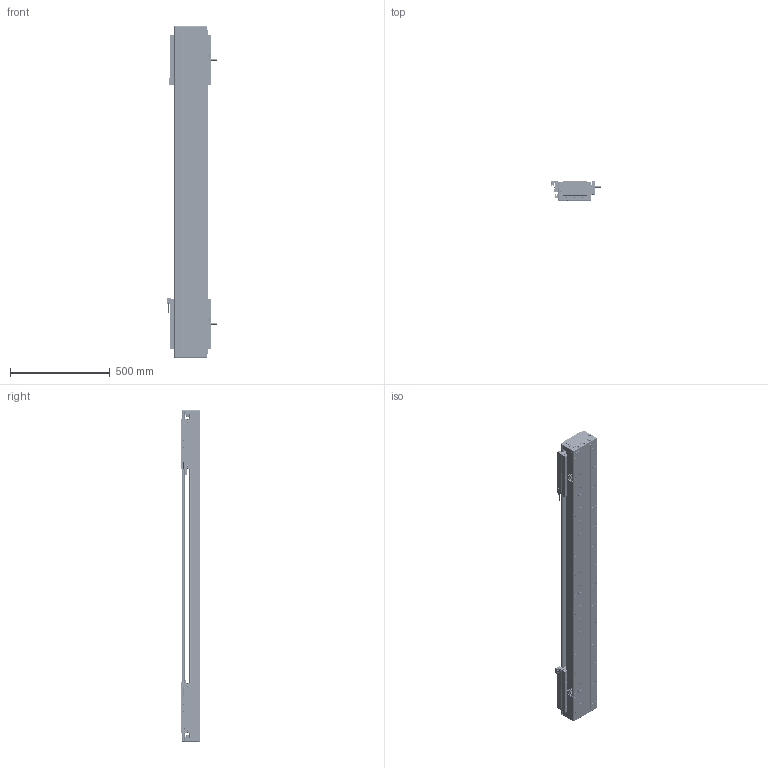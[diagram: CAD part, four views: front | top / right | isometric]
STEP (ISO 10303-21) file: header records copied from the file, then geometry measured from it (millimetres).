
FILE_DESCRIPTION (( 'STEP AP203' ), '1' );
FILE_NAME ('DA-C165-2-C3-T1040-C010-0.2 直线电机.STEP', '2023-06-13T09:27:27', ( '微软用户' ), ( '微软中国' ), 'SwSTEP 2.0', 'SolidWorks 2019', '' );
FILE_SCHEMA (( 'CONFIG_CONTROL_DESIGN' ));
Length unit declared in the file: millimetre
Products named in the file (19): 复件 DA95-HXJ-00 缓冲橡胶^DA-C165-C3-T-C010-0.2-N 直线电机; 复件 XD-U-02L 磁栅尺^DA-C165-C3-T-C010-0.2-N 直线电机_T; 葩璃 PM-T45^DA-C165-C3-T-C010-0.2-N 眻盄萇儂; 珨极趙賑雄怢啣C3-wf; 葩璃 DA95-GT-T-00^IU-CU165-L 菁釱絳寢_T; 复件 66338-1000-006-00 光电感应块^DA-C165-C3-T-C010-0.2-N 直线电机; 复件 DMA-010-0.2 读数头^DA-C165-C3-T-C010-0.2-N 直线电机; 复件 DA126-GYP-ZJ-00 中间光电感应片^DA-C165-C3-T-C010-0.2-N 直线电机; 葩璃 CKM01-W075-TRL^DA-C165-C3-T-C010-0.2-N 眻盄萇儂; 葩璃 PM-Y45^DA-C165-C3-T-C010-0.2-N 眻盄萇儂; 复件 DA165-GYP-00 光电感应片^DA-C165-C3-T-C010-0.2-N 直线电机; 复件 CU165 底座^IU-CU165-L 底座导轨_L1620; 复件 DA165-DG-H-N-00 端盖^DA-C165-C3-T-C010-0.2-N 直线电机; 复件 DKW-HXJ-JY-00 缓冲橡胶^DA-C165-C3-T-C010-0.2-N 直线电机; 葩璃 CKM03-W075-C1C2-TP-3.0^DA-C165-C3-T-C010-0.2-N 眻盄萇儂; 复件 DA165-T-002-00 盖板^DA-C165-C3-T-C010-0.2-N 直线电机_0840-002-00; IU-CU165-L 菁釱絳寢; 复件 六角薄螺母 M3^DA-C165-C3-T-C010-0.2-N 直线电机_GB_FASTENER_NUT_STNAB M3-C; DA-C165-2-C3-T1040-C010-0.2 眻盄萇儂
Assembly tree (40 placements, depth 3):
  DA-C165-2-C3-T1040-C010-0.2 眻盄萇儂
    IU-CU165-L 菁釱絳寢
      复件 CU165 底座^IU-CU165-L 底座导轨_L1620
      葩璃 DA95-GT-T-00^IU-CU165-L 菁釱絳寢_T  x4
    复件 DA165-DG-H-N-00 端盖^DA-C165-C3-T-C010-0.2-N 直线电机  x2
    复件 DA95-HXJ-00 缓冲橡胶^DA-C165-C3-T-C010-0.2-N 直线电机  x4
    复件 DA165-T-002-00 盖板^DA-C165-C3-T-C010-0.2-N 直线电机_0840-002-00
    复件 XD-U-02L 磁栅尺^DA-C165-C3-T-C010-0.2-N 直线电机_T
    葩璃 PM-T45^DA-C165-C3-T-C010-0.2-N 眻盄萇儂  x4
    葩璃 CKM01-W075-TRL^DA-C165-C3-T-C010-0.2-N 眻盄萇儂
    复件 DMA-010-0.2 读数头^DA-C165-C3-T-C010-0.2-N 直线电机  x2
    复件 DA165-GYP-00 光电感应片^DA-C165-C3-T-C010-0.2-N 直线电机  x2
    复件 66338-1000-006-00 光电感应块^DA-C165-C3-T-C010-0.2-N 直线电机
    葩璃 PM-Y45^DA-C165-C3-T-C010-0.2-N 眻盄萇儂
    复件 DA126-GYP-ZJ-00 中间光电感应片^DA-C165-C3-T-C010-0.2-N 直线电机
    葩璃 CKM03-W075-C1C2-TP-3.0^DA-C165-C3-T-C010-0.2-N 眻盄萇儂  x2
    复件 DKW-HXJ-JY-00 缓冲橡胶^DA-C165-C3-T-C010-0.2-N 直线电机  x2
    复件 六角薄螺母 M3^DA-C165-C3-T-C010-0.2-N 直线电机_GB_FASTENER_NUT_STNAB M3-C  x8
    珨极趙賑雄怢啣C3-wf  x2
Bounding box: 247.2 x 111.45 x 1660 mm (x, y, z)
Volume: 13705620.9 mm3; surface area: 3594393.2 mm2
Topology: 117 solids, 217 shells, 6058 faces, 16085 edges, 9924 vertices
Faces by surface type: cylinder 3008, plane 1998, cone 956, torus 88, sphere 8
Entity records: 125288 total; most frequent: CARTESIAN_POINT 31146, DIRECTION 19253, ORIENTED_EDGE 19056, EDGE_CURVE 9528, AXIS2_PLACEMENT_3D 7279, VERTEX_POINT 6178, LINE 4695, VECTOR 4695
